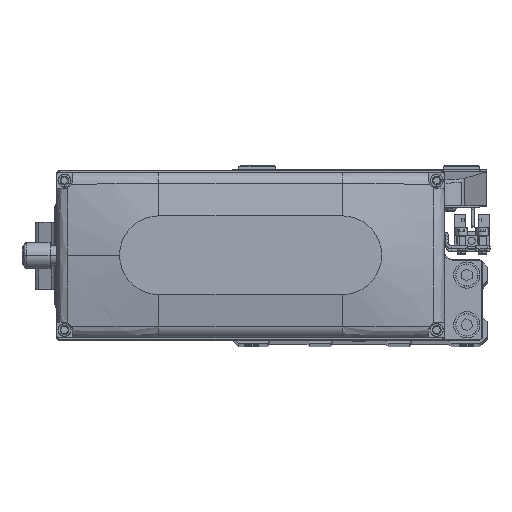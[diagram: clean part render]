
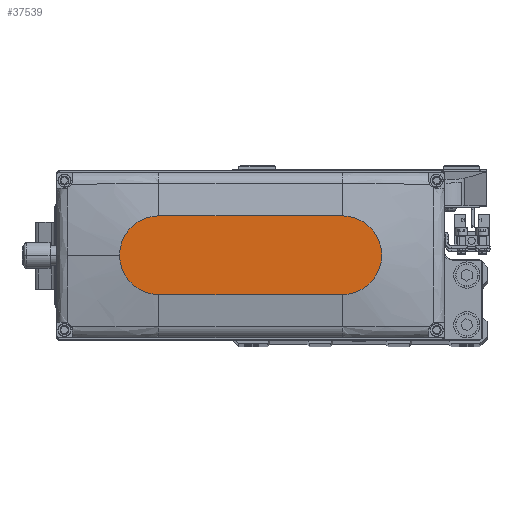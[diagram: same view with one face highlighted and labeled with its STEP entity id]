
A CAD part, top view. The second image highlights one B-rep face of the part: STEP entity #37539.
In plain terms, the highlighted planar face has unit normal (0, 0, 1).
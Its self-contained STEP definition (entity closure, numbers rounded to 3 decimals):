
#158 = CARTESIAN_POINT ( 'NONE',  ( 35., 15., 35. ) ) ;
#421 = DIRECTION ( 'NONE',  ( 1., 0., 0. ) ) ;
#630 = CARTESIAN_POINT ( 'NONE',  ( 35., 0., 35. ) ) ;
#1231 = VECTOR ( 'NONE', #421, 1000. ) ;
#6422 = ORIENTED_EDGE ( 'NONE', *, *, #9912, .T. ) ;
#6581 = CIRCLE ( 'NONE', #32705, 15. ) ;
#6585 = CARTESIAN_POINT ( 'NONE',  ( -35., 15., 35. ) ) ;
#6617 = AXIS2_PLACEMENT_3D ( 'NONE', #9202, #23434, #37710 ) ;
#7148 = ORIENTED_EDGE ( 'NONE', *, *, #24929, .T. ) ;
#7186 = CARTESIAN_POINT ( 'NONE',  ( -35., -15., 35. ) ) ;
#8901 = CIRCLE ( 'NONE', #35042, 15. ) ;
#9202 = CARTESIAN_POINT ( 'NONE',  ( 0., 0., 35. ) ) ;
#9735 = DIRECTION ( 'NONE',  ( 0., 0., 1. ) ) ;
#9912 = EDGE_CURVE ( 'NONE', #42594, #13178, #18361, .T. ) ;
#10734 = EDGE_CURVE ( 'NONE', #13178, #31912, #18198, .T. ) ;
#11373 = DIRECTION ( 'NONE',  ( 1., 0., 0. ) ) ;
#13178 = VERTEX_POINT ( 'NONE', #7186 ) ;
#13186 = VERTEX_POINT ( 'NONE', #158 ) ;
#14909 = DIRECTION ( 'NONE',  ( 0., 0., 1. ) ) ;
#16000 = VECTOR ( 'NONE', #20821, 1000. ) ;
#17137 = EDGE_CURVE ( 'NONE', #13186, #42594, #38587, .T. ) ;
#18198 = LINE ( 'NONE', #32463, #1231 ) ;
#18361 = CIRCLE ( 'NONE', #44473, 15. ) ;
#18607 = ORIENTED_EDGE ( 'NONE', *, *, #37195, .T. ) ;
#19889 = ORIENTED_EDGE ( 'NONE', *, *, #10734, .T. ) ;
#20821 = DIRECTION ( 'NONE',  ( -1., 0., 0. ) ) ;
#23434 = DIRECTION ( 'NONE',  ( 0., 0., 1. ) ) ;
#23970 = DIRECTION ( 'NONE',  ( 1., 0., 0. ) ) ;
#24499 = CARTESIAN_POINT ( 'NONE',  ( 50., 0., 35. ) ) ;
#24929 = EDGE_CURVE ( 'NONE', #31912, #25742, #8901, .T. ) ;
#25488 = ORIENTED_EDGE ( 'NONE', *, *, #17137, .T. ) ;
#25742 = VERTEX_POINT ( 'NONE', #24499 ) ;
#26772 = EDGE_LOOP ( 'NONE', ( #25488, #6422, #19889, #7148, #18607 ) ) ;
#26982 = FACE_OUTER_BOUND ( 'NONE', #26772, .T. ) ;
#29141 = CARTESIAN_POINT ( 'NONE',  ( -35., 0., 35. ) ) ;
#29165 = DIRECTION ( 'NONE',  ( 1., 0., 0. ) ) ;
#31912 = VERTEX_POINT ( 'NONE', #34597 ) ;
#32463 = CARTESIAN_POINT ( 'NONE',  ( -35., -15., 35. ) ) ;
#32705 = AXIS2_PLACEMENT_3D ( 'NONE', #41746, #9735, #23970 ) ;
#34597 = CARTESIAN_POINT ( 'NONE',  ( 35., -15., 35. ) ) ;
#35042 = AXIS2_PLACEMENT_3D ( 'NONE', #630, #14909, #29165 ) ;
#37195 = EDGE_CURVE ( 'NONE', #25742, #13186, #6581, .T. ) ;
#37539 = ADVANCED_FACE ( 'NONE', ( #26982 ), #41221, .T. ) ;
#37710 = DIRECTION ( 'NONE',  ( 1., 0., 0. ) ) ;
#38587 = LINE ( 'NONE', #6585, #16000 ) ;
#41221 = PLANE ( 'NONE',  #6617 ) ;
#41746 = CARTESIAN_POINT ( 'NONE',  ( 35., 0., 35. ) ) ;
#42594 = VERTEX_POINT ( 'NONE', #45524 ) ;
#43376 = DIRECTION ( 'NONE',  ( 0., 0., 1. ) ) ;
#44473 = AXIS2_PLACEMENT_3D ( 'NONE', #29141, #43376, #11373 ) ;
#45524 = CARTESIAN_POINT ( 'NONE',  ( -35., 15., 35. ) ) ;
